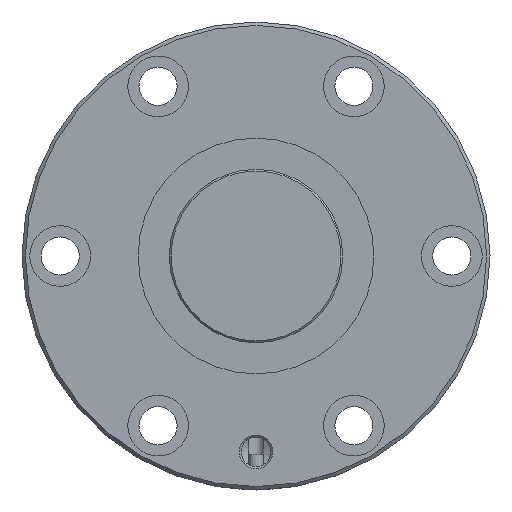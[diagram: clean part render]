
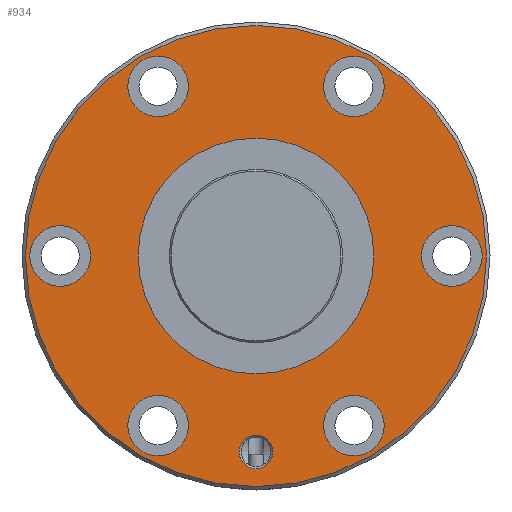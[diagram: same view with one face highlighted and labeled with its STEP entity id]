
A CAD part, left-side view. The second image highlights one B-rep face of the part: STEP entity #934.
In plain terms, the highlighted planar face has unit normal (-1, 0, 0).
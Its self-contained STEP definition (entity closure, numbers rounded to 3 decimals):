
#97=PLANE('',#1044);
#156=ORIENTED_EDGE('',*,*,#358,.T.);
#157=ORIENTED_EDGE('',*,*,#359,.T.);
#158=ORIENTED_EDGE('',*,*,#360,.T.);
#159=ORIENTED_EDGE('',*,*,#361,.T.);
#160=ORIENTED_EDGE('',*,*,#362,.T.);
#161=ORIENTED_EDGE('',*,*,#363,.T.);
#162=ORIENTED_EDGE('',*,*,#364,.T.);
#163=ORIENTED_EDGE('',*,*,#365,.T.);
#164=ORIENTED_EDGE('',*,*,#357,.F.);
#357=EDGE_CURVE('',#463,#463,#548,.T.);
#358=EDGE_CURVE('',#464,#464,#549,.T.);
#359=EDGE_CURVE('',#465,#465,#550,.F.);
#360=EDGE_CURVE('',#466,#466,#551,.T.);
#361=EDGE_CURVE('',#467,#467,#552,.T.);
#362=EDGE_CURVE('',#468,#468,#553,.T.);
#363=EDGE_CURVE('',#469,#469,#554,.T.);
#364=EDGE_CURVE('',#470,#470,#555,.T.);
#365=EDGE_CURVE('',#471,#471,#556,.T.);
#463=VERTEX_POINT('',#1567);
#464=VERTEX_POINT('',#1570);
#465=VERTEX_POINT('',#1572);
#466=VERTEX_POINT('',#1574);
#467=VERTEX_POINT('',#1576);
#468=VERTEX_POINT('',#1578);
#469=VERTEX_POINT('',#1580);
#470=VERTEX_POINT('',#1582);
#471=VERTEX_POINT('',#1584);
#548=CIRCLE('',#1043,66.5);
#549=CIRCLE('',#1045,34.);
#550=CIRCLE('',#1046,8.75);
#551=CIRCLE('',#1047,4.864);
#552=CIRCLE('',#1048,8.75);
#553=CIRCLE('',#1049,8.75);
#554=CIRCLE('',#1050,8.75);
#555=CIRCLE('',#1051,8.75);
#556=CIRCLE('',#1052,8.75);
#631=EDGE_LOOP('',(#156));
#632=EDGE_LOOP('',(#157));
#633=EDGE_LOOP('',(#158));
#634=EDGE_LOOP('',(#159));
#635=EDGE_LOOP('',(#160));
#636=EDGE_LOOP('',(#161));
#637=EDGE_LOOP('',(#162));
#638=EDGE_LOOP('',(#163));
#639=EDGE_LOOP('',(#164));
#773=FACE_BOUND('',#631,.T.);
#774=FACE_BOUND('',#632,.T.);
#775=FACE_BOUND('',#633,.T.);
#776=FACE_BOUND('',#634,.T.);
#777=FACE_BOUND('',#635,.T.);
#778=FACE_BOUND('',#636,.T.);
#779=FACE_BOUND('',#637,.T.);
#780=FACE_BOUND('',#638,.T.);
#781=FACE_BOUND('',#639,.T.);
#934=ADVANCED_FACE('',(#773,#774,#775,#776,#777,#778,#779,#780,#781),#97,
 .T.);
#1043=AXIS2_PLACEMENT_3D('',#1566,#1217,#1218);
#1044=AXIS2_PLACEMENT_3D('',#1568,#1219,#1220);
#1045=AXIS2_PLACEMENT_3D('',#1569,#1221,#1222);
#1046=AXIS2_PLACEMENT_3D('',#1571,#1223,#1224);
#1047=AXIS2_PLACEMENT_3D('',#1573,#1225,#1226);
#1048=AXIS2_PLACEMENT_3D('',#1575,#1227,#1228);
#1049=AXIS2_PLACEMENT_3D('',#1577,#1229,#1230);
#1050=AXIS2_PLACEMENT_3D('',#1579,#1231,#1232);
#1051=AXIS2_PLACEMENT_3D('',#1581,#1233,#1234);
#1052=AXIS2_PLACEMENT_3D('',#1583,#1235,#1236);
#1217=DIRECTION('',(1.,0.,0.));
#1218=DIRECTION('',(0.,0.,-1.));
#1219=DIRECTION('',(-1.,0.,0.));
#1220=DIRECTION('',(0.,0.,1.));
#1221=DIRECTION('',(1.,0.,0.));
#1222=DIRECTION('',(0.,0.,-1.));
#1223=DIRECTION('',(-1.,0.,0.));
#1224=DIRECTION('',(0.,0.,1.));
#1225=DIRECTION('',(1.,0.,0.));
#1226=DIRECTION('',(0.,0.,-1.));
#1227=DIRECTION('',(1.,0.,0.));
#1228=DIRECTION('',(0.,0.,-1.));
#1229=DIRECTION('',(1.,0.,0.));
#1230=DIRECTION('',(0.,0.,-1.));
#1231=DIRECTION('',(1.,0.,0.));
#1232=DIRECTION('',(0.,0.,-1.));
#1233=DIRECTION('',(1.,0.,0.));
#1234=DIRECTION('',(0.,0.,-1.));
#1235=DIRECTION('',(1.,0.,0.));
#1236=DIRECTION('',(0.,0.,-1.));
#1566=CARTESIAN_POINT('',(0.,0.,0.));
#1567=CARTESIAN_POINT('',(0.,0.,-66.5));
#1568=CARTESIAN_POINT('',(0.,66.5,0.));
#1569=CARTESIAN_POINT('',(0.,0.,0.));
#1570=CARTESIAN_POINT('',(0.,0.,-34.));
#1571=CARTESIAN_POINT('',(0.,56.5,0.));
#1572=CARTESIAN_POINT('',(0.,56.5,8.75));
#1573=CARTESIAN_POINT('',(0.,0.,-56.5));
#1574=CARTESIAN_POINT('',(0.,0.,-61.364));
#1575=CARTESIAN_POINT('',(0.,-56.5,0.));
#1576=CARTESIAN_POINT('',(0.,-56.5,-8.75));
#1577=CARTESIAN_POINT('',(0.,28.25,48.93));
#1578=CARTESIAN_POINT('',(0.,28.25,40.18));
#1579=CARTESIAN_POINT('',(0.,-28.25,-48.93));
#1580=CARTESIAN_POINT('',(0.,-28.25,-57.68));
#1581=CARTESIAN_POINT('',(0.,-28.25,48.93));
#1582=CARTESIAN_POINT('',(0.,-28.25,40.18));
#1583=CARTESIAN_POINT('',(0.,28.25,-48.93));
#1584=CARTESIAN_POINT('',(0.,28.25,-57.68));
